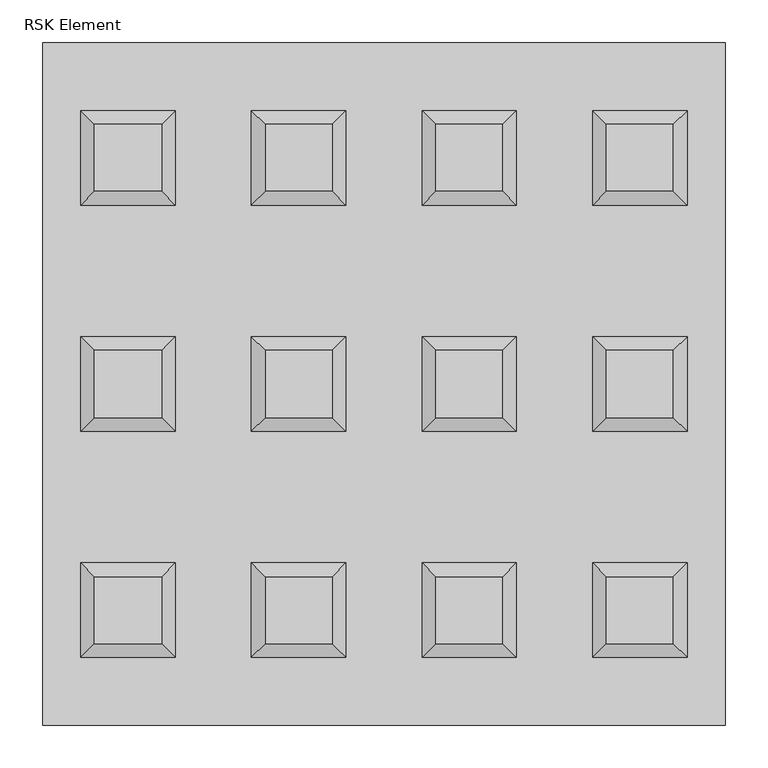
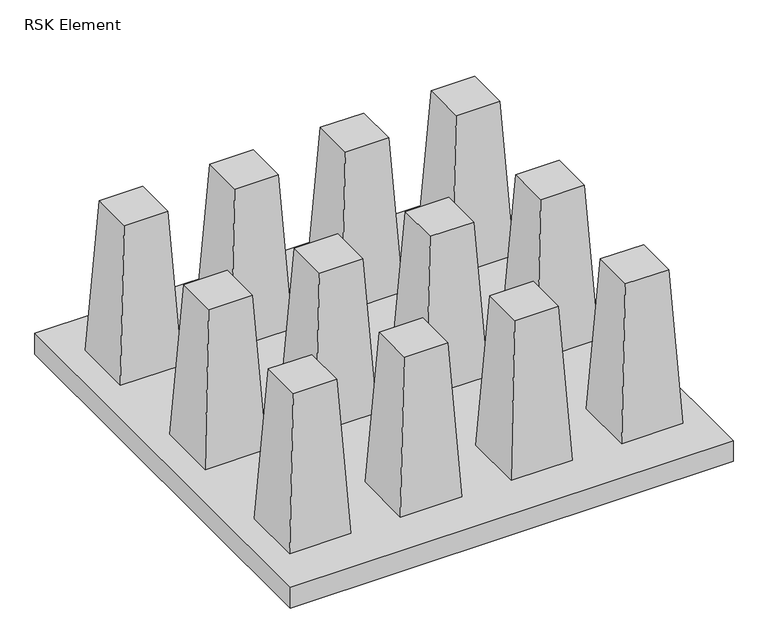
"""IFC4 building model written with IfcOpenShell, lengths in millimetres: proxy geometry, RAUSIKKO SX+HX Element : RSK Element."""

from ifc_helpers import new_model, si_unit, origin, place, context, project, spatial, faceted_brep, source, transform, mapped, element, save


def rsk_element_782520f1(model_context):
    return source(origin(), model_context, "Body", "Brep", [
        faceted_brep([(0.0, 0.0, 40.0), (800.0, 0.0, 40.0), (800.0, 800.0, 40.0), (0.0, 800.0, 40.0), (44.7058961, 79.7058961, 40.0), (44.7058961, 190.2941039, 40.0), (155.2941039, 190.2941039, 40.0), (155.2941039, 79.7058961, 40.0), (44.7058961, 344.7058961, 40.0), (44.7058961, 455.2941039, 40.0), (155.2941039, 455.2941039, 40.0), (155.2941039, 344.7058961, 40.0), (44.7058961, 609.7058961, 40.0), (44.7058961, 720.2941039, 40.0), (155.2941039, 720.2941039, 40.0), (155.2941039, 609.7058961, 40.0), (244.7058961, 609.7058961, 40.0), (244.7058961, 720.2941039, 40.0), (355.2941039, 720.2941039, 40.0), (355.2941039, 609.7058961, 40.0), (244.7058961, 344.7058961, 40.0), (244.7058961, 455.2941039, 40.0), (355.2941039, 455.2941039, 40.0), (355.2941039, 344.7058961, 40.0), (244.7058961, 79.7058961, 40.0), (244.7058961, 190.2941039, 40.0), (355.2941039, 190.2941039, 40.0), (355.2941039, 79.7058961, 40.0), (444.7058961, 79.7058961, 40.0), (444.7058961, 190.2941039, 40.0), (555.2941039, 190.2941039, 40.0), (555.2941039, 79.7058961, 40.0), (444.7058961, 344.7058961, 40.0), (444.7058961, 455.2941039, 40.0), (555.2941039, 455.2941039, 40.0), (555.2941039, 344.7058961, 40.0), (444.7058961, 609.7058961, 40.0), (444.7058961, 720.2941039, 40.0), (555.2941039, 720.2941039, 40.0), (555.2941039, 609.7058961, 40.0), (644.7058961, 79.7058961, 40.0), (644.7058961, 190.2941039, 40.0), (755.2941039, 190.2941039, 40.0), (755.2941039, 79.7058961, 40.0), (644.7058961, 344.7058961, 40.0), (644.7058961, 455.2941039, 40.0), (755.2941039, 455.2941039, 40.0), (755.2941039, 344.7058961, 40.0), (644.7058961, 609.7058961, 40.0), (644.7058961, 720.2941039, 40.0), (755.2941039, 720.2941039, 40.0), (755.2941039, 609.7058961, 40.0), (0.0, 0.0, 0.0), (0.0, 800.0, 0.0), (800.0, 800.0, 0.0), (800.0, 0.0, 0.0), (60.6986426, 174.3013574, 330.0), (60.6986426, 95.6986426, 330.0), (139.3013574, 95.6986426, 330.0), (139.3013574, 174.3013574, 330.0), (60.6986426, 439.3013574, 330.0), (60.6986426, 360.6986426, 330.0), (139.3013574, 360.6986426, 330.0), (139.3013574, 439.3013574, 330.0), (60.6986426, 704.3013574, 330.0), (60.6986426, 625.6986426, 330.0), (139.3013574, 625.6986426, 330.0), (139.3013574, 704.3013574, 330.0), (260.6986426, 704.3013574, 330.0), (260.6986426, 625.6986426, 330.0), (339.3013574, 625.6986426, 330.0), (339.3013574, 704.3013574, 330.0), (260.6986426, 439.3013574, 330.0), (260.6986426, 360.6986426, 330.0), (339.3013574, 360.6986426, 330.0), (339.3013574, 439.3013574, 330.0), (260.6986426, 174.3013574, 330.0), (260.6986426, 95.6986426, 330.0), (339.3013574, 95.6986426, 330.0), (339.3013574, 174.3013574, 330.0), (460.6986426, 174.3013574, 330.0), (460.6986426, 95.6986426, 330.0), (539.3013574, 95.6986426, 330.0), (539.3013574, 174.3013574, 330.0), (460.6986426, 439.3013574, 330.0), (460.6986426, 360.6986426, 330.0), (539.3013574, 360.6986426, 330.0), (539.3013574, 439.3013574, 330.0), (460.6986426, 704.3013574, 330.0), (460.6986426, 625.6986426, 330.0), (539.3013574, 625.6986426, 330.0), (539.3013574, 704.3013574, 330.0), (660.6986426, 174.3013574, 330.0), (660.6986426, 95.6986426, 330.0), (739.3013574, 95.6986426, 330.0), (739.3013574, 174.3013574, 330.0), (660.6986426, 439.3013574, 330.0), (660.6986426, 360.6986426, 330.0), (739.3013574, 360.6986426, 330.0), (739.3013574, 439.3013574, 330.0), (660.6986426, 704.3013574, 330.0), (660.6986426, 625.6986426, 330.0), (739.3013574, 625.6986426, 330.0), (739.3013574, 704.3013574, 330.0)], [[[0, 1, 2, 3], [4, 5, 6, 7], [8, 9, 10, 11], [12, 13, 14, 15], [16, 17, 18, 19], [20, 21, 22, 23], [24, 25, 26, 27], [28, 29, 30, 31], [32, 33, 34, 35], [36, 37, 38, 39], [40, 41, 42, 43], [44, 45, 46, 47], [48, 49, 50, 51]], [[52, 53, 54, 55]], [[1, 0, 52, 55]], [[2, 1, 55, 54]], [[3, 2, 54, 53]], [[0, 3, 53, 52]], [[56, 57, 58, 59]], [[57, 56, 5, 4]], [[58, 57, 4, 7]], [[59, 58, 7, 6]], [[56, 59, 6, 5]], [[60, 61, 62, 63]], [[61, 60, 9, 8]], [[62, 61, 8, 11]], [[63, 62, 11, 10]], [[60, 63, 10, 9]], [[64, 65, 66, 67]], [[65, 64, 13, 12]], [[66, 65, 12, 15]], [[67, 66, 15, 14]], [[64, 67, 14, 13]], [[68, 69, 70, 71]], [[69, 68, 17, 16]], [[70, 69, 16, 19]], [[71, 70, 19, 18]], [[68, 71, 18, 17]], [[72, 73, 74, 75]], [[73, 72, 21, 20]], [[74, 73, 20, 23]], [[75, 74, 23, 22]], [[72, 75, 22, 21]], [[76, 77, 78, 79]], [[77, 76, 25, 24]], [[78, 77, 24, 27]], [[79, 78, 27, 26]], [[76, 79, 26, 25]], [[80, 81, 82, 83]], [[81, 80, 29, 28]], [[82, 81, 28, 31]], [[83, 82, 31, 30]], [[80, 83, 30, 29]], [[84, 85, 86, 87]], [[85, 84, 33, 32]], [[86, 85, 32, 35]], [[87, 86, 35, 34]], [[84, 87, 34, 33]], [[88, 89, 90, 91]], [[89, 88, 37, 36]], [[90, 89, 36, 39]], [[91, 90, 39, 38]], [[88, 91, 38, 37]], [[92, 93, 94, 95]], [[93, 92, 41, 40]], [[94, 93, 40, 43]], [[95, 94, 43, 42]], [[92, 95, 42, 41]], [[96, 97, 98, 99]], [[97, 96, 45, 44]], [[98, 97, 44, 47]], [[99, 98, 47, 46]], [[96, 99, 46, 45]], [[100, 101, 102, 103]], [[101, 100, 49, 48]], [[102, 101, 48, 51]], [[103, 102, 51, 50]], [[100, 103, 50, 49]]]),
    ])


if __name__ == "__main__":
    model = new_model("IFC4")
    model_context = context("Model", 3, world=origin())
    ifc_project = project(units=[si_unit("LENGTHUNIT", "METRE", prefix="MILLI")], contexts=[model_context])
    site = spatial("IfcSite", under=ifc_project)
    building = spatial("IfcBuilding", under=site)
    placement = place(None, origin())
    rsk_element_shape = rsk_element_782520f1(model_context)
    element("IfcBuildingElementProxy", 1, Name="RAUSIKKO SX+HX Element : RSK Element", ObjectType="RAUSIKKO SX+HX Element : RSK Element", at=placement, inside=building, context=model_context, shape_type="MappedRepresentation", body=[
        mapped(rsk_element_shape, transform((0.0, 0.0, 0.0), x_axis=(1.0, 0.0, 0.0), y_axis=(0.0, 1.0, 0.0), z_axis=(0.0, 0.0, 1.0))),
    ])
    save(model, "model.ifc")
